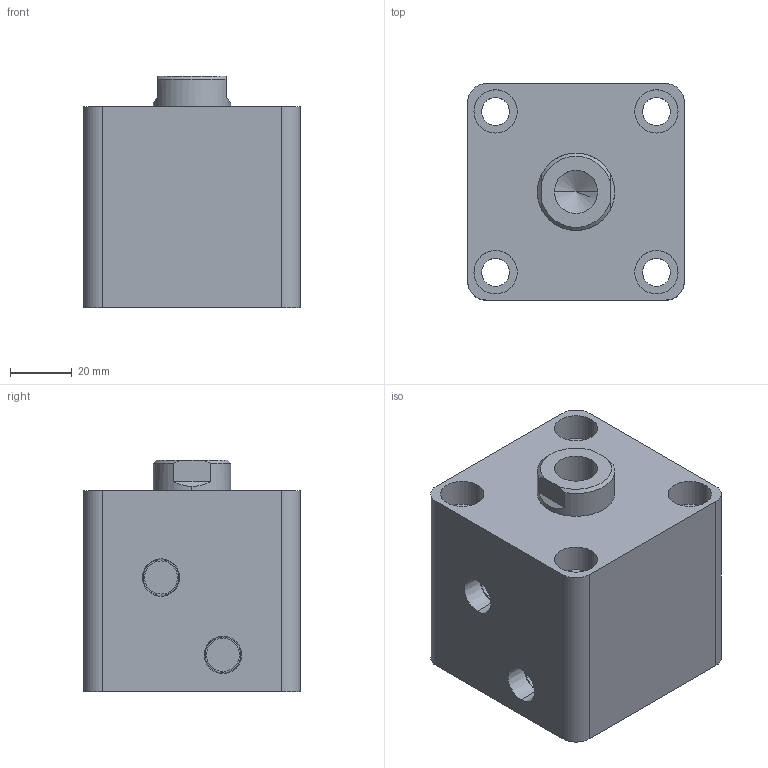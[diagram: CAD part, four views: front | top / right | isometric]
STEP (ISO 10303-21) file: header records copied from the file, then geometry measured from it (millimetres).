
FILE_DESCRIPTION (( 'STEP AP203' ), '1' );
FILE_NAME ('HTB-SD40-10N.STEP', '2019-10-07T06:46:31', ( '微软用户' ), ( '微软中国' ), 'SwSTEP 2.0', 'SolidWorks 2012', '' );
FILE_SCHEMA (( 'CONFIG_CONTROL_DESIGN' ));
Length unit declared in the file: millimetre
Products named in the file (3): HTB-SD40-10掛极; HTB-SD40-10N活塞杆; HTB-SD40-10N
Assembly tree (2 placements, depth 2):
  HTB-SD40-10N
    HTB-SD40-10掛极
    HTB-SD40-10N活塞杆
Bounding box: 70 x 70 x 75 mm (x, y, z)
Volume: 285247.8 mm3; surface area: 52350.3 mm2
Topology: 2 solids, 2 shells, 81 faces, 180 edges, 117 vertices
Faces by surface type: cylinder 42, plane 27, cone 8, torus 4
Entity records: 2603 total; most frequent: DIRECTION 444, CARTESIAN_POINT 409, ORIENTED_EDGE 356, AXIS2_PLACEMENT_3D 188, EDGE_CURVE 178, VERTEX_POINT 117, EDGE_LOOP 105, CIRCLE 102
